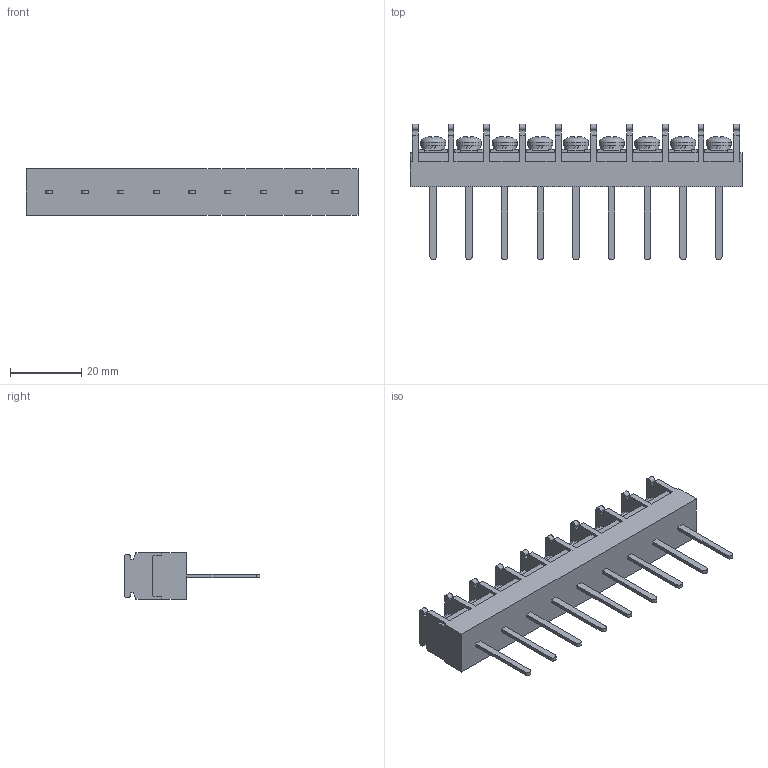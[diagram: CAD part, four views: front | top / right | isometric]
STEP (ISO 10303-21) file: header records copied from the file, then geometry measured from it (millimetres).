
FILE_DESCRIPTION(/* description */ ('Alibre Inc.'),/* implementation_level */ '2;1');
FILE_NAME(/* name */ 'export0',/* time_stamp */ '2015-10-17T19:25:49+09:00',/* author */ (''),/* organization */ (''),/* preprocessor_version */ 'ST-DEVELOPER v14',/* originating_system */ 'Alibre',/* authorisation */ '');
FILE_SCHEMA (('CONFIG_CONTROL_DESIGN'));
Length unit declared in the file: centimetre
Products named in the file (1): ID_1
Bounding box: 93 x 38 x 13 mm (x, y, z)
Volume: 14555.2 mm3; surface area: 9092.6 mm2
Topology: 1 solids, 17 shells, 971 faces, 2643 edges, 1753 vertices
Faces by surface type: plane 730, bspline 104, cylinder 74, cone 36, torus 18, sphere 9
Full cylindrical faces by diameter (mm): 4 x9, 6.5 x9, 7 x9
Entity records: 29650 total; most frequent: CARTESIAN_POINT 6509, ORIENTED_EDGE 5160, DIRECTION 3722, EDGE_CURVE 2580, VECTOR 1900, LINE 1900, VERTEX_POINT 1726, AXIS2_PLACEMENT_3D 1275
